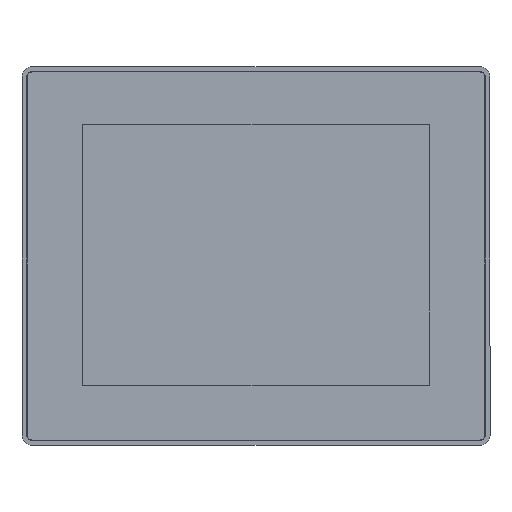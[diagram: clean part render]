
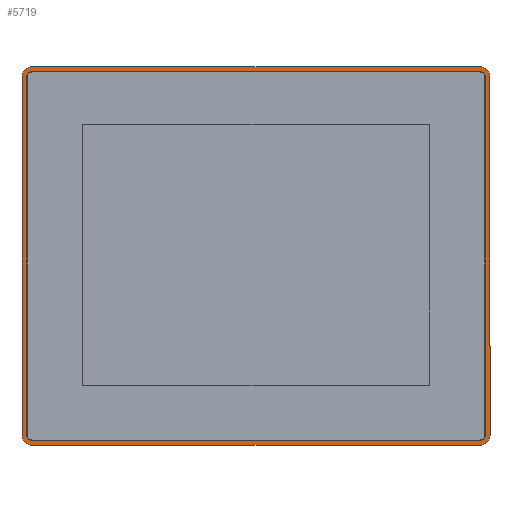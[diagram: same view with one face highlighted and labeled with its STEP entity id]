
A CAD part, top view. The second image highlights one B-rep face of the part: STEP entity #5719.
In plain terms, the highlighted planar face has unit normal (0, 0, 1).
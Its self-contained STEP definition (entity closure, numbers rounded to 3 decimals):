
#5719 = ADVANCED_FACE ( 'NONE', ( #37743, #37739 ), #79320, .F. ) ;
#7597 = ORIENTED_EDGE ( 'NONE', *, *, #89635, .T. ) ;
#7628 = ORIENTED_EDGE ( 'NONE', *, *, #89622, .T. ) ;
#7630 = ORIENTED_EDGE ( 'NONE', *, *, #89628, .T. ) ;
#7631 = ORIENTED_EDGE ( 'NONE', *, *, #89560, .T. ) ;
#7632 = ORIENTED_EDGE ( 'NONE', *, *, #89544, .F. ) ;
#7646 = ORIENTED_EDGE ( 'NONE', *, *, #89545, .F. ) ;
#7647 = ORIENTED_EDGE ( 'NONE', *, *, #89632, .T. ) ;
#7648 = ORIENTED_EDGE ( 'NONE', *, *, #89549, .F. ) ;
#7671 = ORIENTED_EDGE ( 'NONE', *, *, #89630, .T. ) ;
#7681 = ORIENTED_EDGE ( 'NONE', *, *, #89625, .T. ) ;
#7685 = ORIENTED_EDGE ( 'NONE', *, *, #89551, .F. ) ;
#7689 = ORIENTED_EDGE ( 'NONE', *, *, #89547, .F. ) ;
#7701 = ORIENTED_EDGE ( 'NONE', *, *, #89558, .F. ) ;
#7705 = ORIENTED_EDGE ( 'NONE', *, *, #89543, .F. ) ;
#7706 = ORIENTED_EDGE ( 'NONE', *, *, #89554, .F. ) ;
#15225 = EDGE_LOOP ( 'NONE', ( #7631, #7671, #7597, #7630, #7647, #7681, #7628, #43235 ) ) ;
#15864 = EDGE_LOOP ( 'NONE', ( #7632, #7646, #7689, #7685, #7705, #7706, #7701, #7648 ) ) ;
#35861 = CARTESIAN_POINT ( 'NONE',  ( 137.5, 116., 4. ) ) ;
#35881 = CARTESIAN_POINT ( 'NONE',  ( 137.5, -116., 4. ) ) ;
#35899 = CARTESIAN_POINT ( 'NONE',  ( 137.5, 113., 4. ) ) ;
#35904 = CARTESIAN_POINT ( 'NONE',  ( -137.5, 113., 4. ) ) ;
#35938 = CARTESIAN_POINT ( 'NONE',  ( 140.5, -110., 4. ) ) ;
#35982 = CARTESIAN_POINT ( 'NONE',  ( 143.5, 110., 4. ) ) ;
#35992 = CARTESIAN_POINT ( 'NONE',  ( -137.5, -116., 4. ) ) ;
#36062 = CARTESIAN_POINT ( 'NONE',  ( -140.5, -110., 4. ) ) ;
#37739 = FACE_OUTER_BOUND ( 'NONE', #15225, .T. ) ;
#37743 = FACE_BOUND ( 'NONE', #15864, .T. ) ;
#40586 = CARTESIAN_POINT ( 'NONE',  ( -140.5, 110., 4. ) ) ;
#40856 = CARTESIAN_POINT ( 'NONE',  ( -143.5, -110., 4. ) ) ;
#40869 = CARTESIAN_POINT ( 'NONE',  ( 140.5, 110., 4. ) ) ;
#40979 = CARTESIAN_POINT ( 'NONE',  ( -143.5, 110., 4. ) ) ;
#41307 = CARTESIAN_POINT ( 'NONE',  ( 137.5, -113., 4. ) ) ;
#41515 = CARTESIAN_POINT ( 'NONE',  ( -137.5, -113., 4. ) ) ;
#41544 = CARTESIAN_POINT ( 'NONE',  ( -137.5, 116., 4. ) ) ;
#41669 = CARTESIAN_POINT ( 'NONE',  ( 143.5, -110., 4. ) ) ;
#43235 = ORIENTED_EDGE ( 'NONE', *, *, #89619, .T. ) ;
#44917 = VERTEX_POINT ( 'NONE', #40586 ) ;
#44988 = VERTEX_POINT ( 'NONE', #40856 ) ;
#44993 = VERTEX_POINT ( 'NONE', #40869 ) ;
#45025 = VERTEX_POINT ( 'NONE', #40979 ) ;
#45102 = VERTEX_POINT ( 'NONE', #41307 ) ;
#45143 = VERTEX_POINT ( 'NONE', #41515 ) ;
#45148 = VERTEX_POINT ( 'NONE', #41544 ) ;
#45192 = VERTEX_POINT ( 'NONE', #41669 ) ;
#49569 = AXIS2_PLACEMENT_3D ( 'NONE', #79319, #79328, #79329 ) ;
#52766 = VERTEX_POINT ( 'NONE', #35861 ) ;
#52786 = VERTEX_POINT ( 'NONE', #35881 ) ;
#52804 = VERTEX_POINT ( 'NONE', #35899 ) ;
#52809 = VERTEX_POINT ( 'NONE', #35904 ) ;
#52843 = VERTEX_POINT ( 'NONE', #35938 ) ;
#52887 = VERTEX_POINT ( 'NONE', #35982 ) ;
#52897 = VERTEX_POINT ( 'NONE', #35992 ) ;
#53023 = VERTEX_POINT ( 'NONE', #36062 ) ;
#73774 = AXIS2_PLACEMENT_3D ( 'NONE', #76706, #76739, #76742 ) ;
#73777 = AXIS2_PLACEMENT_3D ( 'NONE', #76714, #76718, #76721 ) ;
#73778 = AXIS2_PLACEMENT_3D ( 'NONE', #76665, #76675, #76677 ) ;
#73779 = AXIS2_PLACEMENT_3D ( 'NONE', #76692, #76701, #76704 ) ;
#73781 = AXIS2_PLACEMENT_3D ( 'NONE', #76766, #76782, #76784 ) ;
#73820 = AXIS2_PLACEMENT_3D ( 'NONE', #77327, #77332, #77334 ) ;
#73821 = AXIS2_PLACEMENT_3D ( 'NONE', #77254, #77263, #77265 ) ;
#73822 = AXIS2_PLACEMENT_3D ( 'NONE', #77320, #77352, #77354 ) ;
#75897 = LINE ( 'NONE', #76652, #75907 ) ;
#75905 = LINE ( 'NONE', #76661, #75906 ) ;
#75906 = VECTOR ( 'NONE', #76663, 1000. ) ;
#75907 = VECTOR ( 'NONE', #76670, 1000. ) ;
#75911 = CIRCLE ( 'NONE', #73778, 3. ) ;
#75912 = LINE ( 'NONE', #76687, #75913 ) ;
#75913 = VECTOR ( 'NONE', #76690, 1000. ) ;
#75917 = CIRCLE ( 'NONE', #73779, 3. ) ;
#75920 = CIRCLE ( 'NONE', #73777, 3. ) ;
#75925 = CIRCLE ( 'NONE', #73774, 3. ) ;
#75927 = LINE ( 'NONE', #76737, #75929 ) ;
#75929 = VECTOR ( 'NONE', #76769, 1000. ) ;
#75933 = CIRCLE ( 'NONE', #73781, 6. ) ;
#76015 = LINE ( 'NONE', #77241, #76016 ) ;
#76016 = VECTOR ( 'NONE', #77243, 1000. ) ;
#76022 = CIRCLE ( 'NONE', #73821, 6. ) ;
#76024 = LINE ( 'NONE', #77283, #76025 ) ;
#76025 = VECTOR ( 'NONE', #77286, 1000. ) ;
#76029 = LINE ( 'NONE', #77302, #76030 ) ;
#76030 = VECTOR ( 'NONE', #77305, 1000. ) ;
#76033 = LINE ( 'NONE', #77315, #76034 ) ;
#76034 = VECTOR ( 'NONE', #77317, 1000. ) ;
#76037 = CIRCLE ( 'NONE', #73820, 6. ) ;
#76040 = CIRCLE ( 'NONE', #73822, 6. ) ;
#76652 = CARTESIAN_POINT ( 'NONE',  ( -140.5, 110., 4. ) ) ;
#76661 = CARTESIAN_POINT ( 'NONE',  ( 140.5, 110., 4. ) ) ;
#76663 = DIRECTION ( 'NONE',  ( 0., 1., 0. ) ) ;
#76665 = CARTESIAN_POINT ( 'NONE',  ( -137.5, 110., 4. ) ) ;
#76670 = DIRECTION ( 'NONE',  ( 0., -1., 0. ) ) ;
#76675 = DIRECTION ( 'NONE',  ( 0., 0., 1. ) ) ;
#76677 = DIRECTION ( 'NONE',  ( -1., 0., 0. ) ) ;
#76687 = CARTESIAN_POINT ( 'NONE',  ( -137.5, 113., 4. ) ) ;
#76690 = DIRECTION ( 'NONE',  ( -1., 0., 0. ) ) ;
#76692 = CARTESIAN_POINT ( 'NONE',  ( -137.5, -110., 4. ) ) ;
#76701 = DIRECTION ( 'NONE',  ( 0., 0., 1. ) ) ;
#76704 = DIRECTION ( 'NONE',  ( -1., 0., 0. ) ) ;
#76706 = CARTESIAN_POINT ( 'NONE',  ( 137.5, -110., 4. ) ) ;
#76714 = CARTESIAN_POINT ( 'NONE',  ( 137.5, 110., 4. ) ) ;
#76718 = DIRECTION ( 'NONE',  ( 0., 0., 1. ) ) ;
#76721 = DIRECTION ( 'NONE',  ( 1., 0., 0. ) ) ;
#76737 = CARTESIAN_POINT ( 'NONE',  ( -137.5, -113., 4. ) ) ;
#76739 = DIRECTION ( 'NONE',  ( 0., 0., 1. ) ) ;
#76742 = DIRECTION ( 'NONE',  ( -1., 0., 0. ) ) ;
#76766 = CARTESIAN_POINT ( 'NONE',  ( -137.5, 110., 4. ) ) ;
#76769 = DIRECTION ( 'NONE',  ( 1., 0., 0. ) ) ;
#76782 = DIRECTION ( 'NONE',  ( 0., 0., 1. ) ) ;
#76784 = DIRECTION ( 'NONE',  ( -1., 0., 0. ) ) ;
#77241 = CARTESIAN_POINT ( 'NONE',  ( -137.5, 116., 4. ) ) ;
#77243 = DIRECTION ( 'NONE',  ( -1., 0., 0. ) ) ;
#77254 = CARTESIAN_POINT ( 'NONE',  ( 137.5, 110., 4. ) ) ;
#77263 = DIRECTION ( 'NONE',  ( 0., 0., 1. ) ) ;
#77265 = DIRECTION ( 'NONE',  ( 1., 0., 0. ) ) ;
#77283 = CARTESIAN_POINT ( 'NONE',  ( 143.5, 110., 4. ) ) ;
#77286 = DIRECTION ( 'NONE',  ( 0., 1., 0. ) ) ;
#77302 = CARTESIAN_POINT ( 'NONE',  ( -137.5, -116., 4. ) ) ;
#77305 = DIRECTION ( 'NONE',  ( 1., 0., 0. ) ) ;
#77315 = CARTESIAN_POINT ( 'NONE',  ( -143.5, 110., 4. ) ) ;
#77317 = DIRECTION ( 'NONE',  ( 0., -1., 0. ) ) ;
#77320 = CARTESIAN_POINT ( 'NONE',  ( -137.5, -110., 4. ) ) ;
#77327 = CARTESIAN_POINT ( 'NONE',  ( 137.5, -110., 4. ) ) ;
#77332 = DIRECTION ( 'NONE',  ( 0., 0., 1. ) ) ;
#77334 = DIRECTION ( 'NONE',  ( 1., 0., 0. ) ) ;
#77352 = DIRECTION ( 'NONE',  ( 0., 0., 1. ) ) ;
#77354 = DIRECTION ( 'NONE',  ( 1., 0., 0. ) ) ;
#79319 = CARTESIAN_POINT ( 'NONE',  ( -137.5, 110., 4. ) ) ;
#79320 = PLANE ( 'NONE',  #49569 ) ;
#79328 = DIRECTION ( 'NONE',  ( 0., 0., -1. ) ) ;
#79329 = DIRECTION ( 'NONE',  ( -1., 0., 0. ) ) ;
#89543 = EDGE_CURVE ( 'NONE', #52843, #44993, #75905, .T. ) ;
#89544 = EDGE_CURVE ( 'NONE', #44917, #53023, #75897, .T. ) ;
#89545 = EDGE_CURVE ( 'NONE', #52809, #44917, #75911, .T. ) ;
#89547 = EDGE_CURVE ( 'NONE', #52804, #52809, #75912, .T. ) ;
#89549 = EDGE_CURVE ( 'NONE', #53023, #45143, #75917, .T. ) ;
#89551 = EDGE_CURVE ( 'NONE', #44993, #52804, #75920, .T. ) ;
#89554 = EDGE_CURVE ( 'NONE', #45102, #52843, #75925, .T. ) ;
#89558 = EDGE_CURVE ( 'NONE', #45143, #45102, #75927, .T. ) ;
#89560 = EDGE_CURVE ( 'NONE', #45148, #45025, #75933, .T. ) ;
#89619 = EDGE_CURVE ( 'NONE', #52766, #45148, #76015, .T. ) ;
#89622 = EDGE_CURVE ( 'NONE', #52887, #52766, #76022, .T. ) ;
#89625 = EDGE_CURVE ( 'NONE', #45192, #52887, #76024, .T. ) ;
#89628 = EDGE_CURVE ( 'NONE', #52897, #52786, #76029, .T. ) ;
#89630 = EDGE_CURVE ( 'NONE', #45025, #44988, #76033, .T. ) ;
#89632 = EDGE_CURVE ( 'NONE', #52786, #45192, #76037, .T. ) ;
#89635 = EDGE_CURVE ( 'NONE', #44988, #52897, #76040, .T. ) ;
